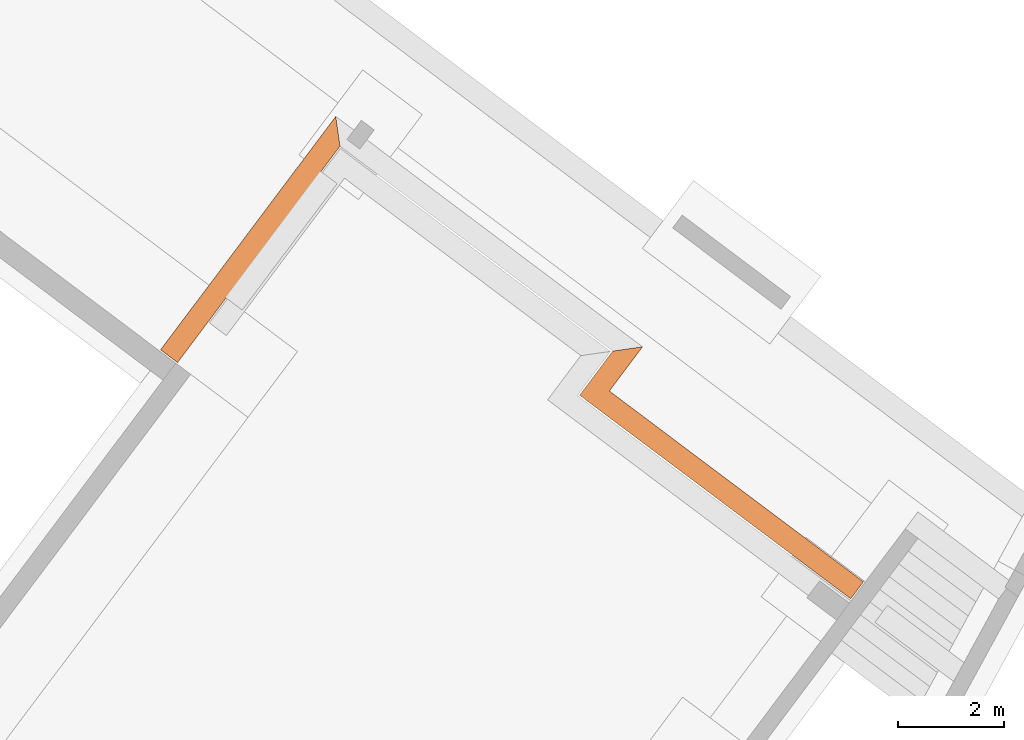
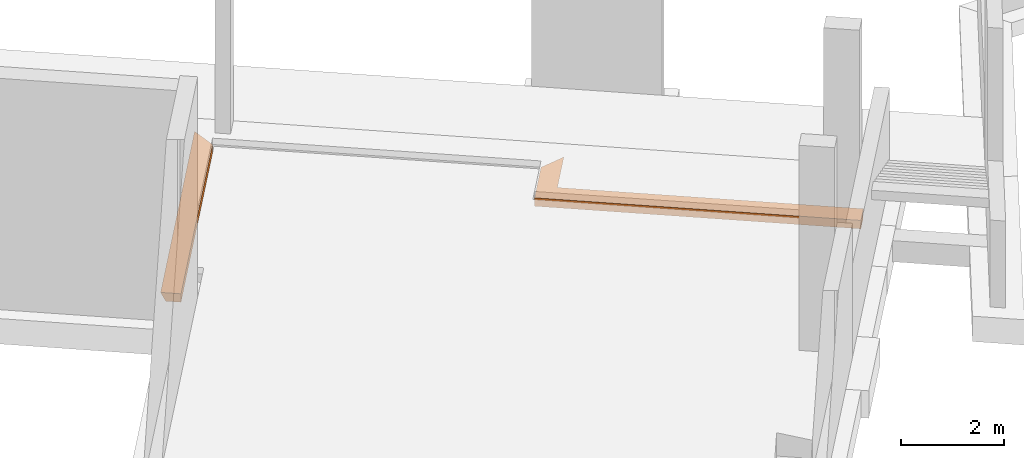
# One storey, part 9 of 9: 1 proxy.
"""IFC2X3 building model written with IfcOpenShell, lengths in metres."""

from ifc_helpers import new_model, entity, si_unit, converted_unit, derived_unit, direction, frame, origin, place, context, subcontext, project, spatial, faceted_brep, type_object, element, save


model = new_model("IFC2X3")

# Units and contexts
model_context = context("Model", 3, precision=1e-05, world=origin(), true_north=direction((6.123031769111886e-17, 1.0)))
body_context = subcontext(model_context, "Body", "Model", "MODEL_VIEW")
ifc_project = project(units=[si_unit("LENGTHUNIT", "METRE"), si_unit("AREAUNIT", "SQUARE_METRE"), si_unit("VOLUMEUNIT", "CUBIC_METRE"), converted_unit("PLANEANGLEUNIT", "DEGREE", entity("IfcRatioMeasure", 0.017453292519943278), si_unit("PLANEANGLEUNIT", "RADIAN"), dimensions=[0, 0, 0, 0, 0, 0, 0]), si_unit("MASSUNIT", "GRAM", prefix="KILO"), derived_unit("MASSDENSITYUNIT", [(si_unit("MASSUNIT", "GRAM", prefix="KILO"), 1), (si_unit("LENGTHUNIT", "METRE"), -3)]), derived_unit("IONCONCENTRATIONUNIT", [(si_unit("MASSUNIT", "GRAM", prefix="KILO"), 1), (si_unit("LENGTHUNIT", "METRE"), -3)]), derived_unit("MOMENTOFINERTIAUNIT", [(si_unit("LENGTHUNIT", "METRE"), 4)]), si_unit("TIMEUNIT", "SECOND"), si_unit("FREQUENCYUNIT", "HERTZ"), si_unit("THERMODYNAMICTEMPERATUREUNIT", "DEGREE_CELSIUS"), derived_unit("THERMALTRANSMITTANCEUNIT", [(si_unit("MASSUNIT", "GRAM", prefix="KILO"), 1), (si_unit("THERMODYNAMICTEMPERATUREUNIT", "KELVIN"), -1), (si_unit("TIMEUNIT", "SECOND"), -3)]), derived_unit("THERMALCONDUCTANCEUNIT", [(si_unit("MASSUNIT", "GRAM", prefix="KILO"), 1), (si_unit("THERMODYNAMICTEMPERATUREUNIT", "KELVIN"), -1), (si_unit("TIMEUNIT", "SECOND"), -3), (si_unit("LENGTHUNIT", "METRE"), 1)]), derived_unit("VOLUMETRICFLOWRATEUNIT", [(si_unit("LENGTHUNIT", "METRE"), 3), (si_unit("TIMEUNIT", "SECOND"), -1)]), derived_unit("MASSFLOWRATEUNIT", [(si_unit("MASSUNIT", "GRAM", prefix="KILO"), 1), (si_unit("TIMEUNIT", "SECOND"), -1)]), derived_unit("ROTATIONALFREQUENCYUNIT", [(si_unit("TIMEUNIT", "SECOND"), -1)]), si_unit("ELECTRICCURRENTUNIT", "AMPERE"), si_unit("ELECTRICVOLTAGEUNIT", "VOLT"), si_unit("POWERUNIT", "WATT"), si_unit("FORCEUNIT", "NEWTON", prefix="KILO"), si_unit("ILLUMINANCEUNIT", "LUX"), si_unit("LUMINOUSFLUXUNIT", "LUMEN"), si_unit("LUMINOUSINTENSITYUNIT", "CANDELA"), derived_unit("USERDEFINED", [(si_unit("MASSUNIT", "GRAM", prefix="KILO"), -1), (si_unit("LENGTHUNIT", "METRE"), -2), (si_unit("TIMEUNIT", "SECOND"), 3), (si_unit("LUMINOUSFLUXUNIT", "LUMEN"), 1)]), derived_unit("USERDEFINED", [(si_unit("MASSUNIT", "GRAM", prefix="KILO"), 1), (si_unit("TIMEUNIT", "SECOND"), -3), (si_unit("LENGTHUNIT", "METRE"), 3), (si_unit("ELECTRICCURRENTUNIT", "AMPERE"), -2)]), derived_unit("SOUNDPOWERUNIT", [(si_unit("MASSUNIT", "GRAM", prefix="KILO"), 1), (si_unit("TIMEUNIT", "SECOND"), -3), (si_unit("LENGTHUNIT", "METRE"), 2)]), derived_unit("SOUNDPRESSUREUNIT", [(si_unit("MASSUNIT", "GRAM", prefix="KILO"), 1), (si_unit("LENGTHUNIT", "METRE"), -1), (si_unit("TIMEUNIT", "SECOND"), -2)]), derived_unit("LINEARVELOCITYUNIT", [(si_unit("LENGTHUNIT", "METRE"), 1), (si_unit("TIMEUNIT", "SECOND"), -1)]), si_unit("PRESSUREUNIT", "PASCAL"), derived_unit("USERDEFINED", [(si_unit("MASSUNIT", "GRAM", prefix="KILO"), 1), (si_unit("LENGTHUNIT", "METRE"), -2), (si_unit("TIMEUNIT", "SECOND"), -2)]), derived_unit("LINEARFORCEUNIT", [(si_unit("MASSUNIT", "GRAM", prefix="KILO"), 1), (si_unit("TIMEUNIT", "SECOND"), -2)]), derived_unit("PLANARFORCEUNIT", [(si_unit("MASSUNIT", "GRAM", prefix="KILO"), 1), (si_unit("LENGTHUNIT", "METRE"), -1), (si_unit("TIMEUNIT", "SECOND"), -2)]), derived_unit("SPECIFICHEATCAPACITYUNIT", [(si_unit("THERMODYNAMICTEMPERATUREUNIT", "KELVIN"), -1), (si_unit("LENGTHUNIT", "METRE"), 2), (si_unit("TIMEUNIT", "SECOND"), -2)]), derived_unit("HEATINGVALUEUNIT", [(si_unit("LENGTHUNIT", "METRE"), 2), (si_unit("TIMEUNIT", "SECOND"), -2)]), derived_unit("VAPORPERMEABILITYUNIT", [(si_unit("LENGTHUNIT", "METRE"), -1), (si_unit("TIMEUNIT", "SECOND"), 1)]), derived_unit("DYNAMICVISCOSITYUNIT", [(si_unit("MASSUNIT", "GRAM", prefix="KILO"), 1), (si_unit("TIMEUNIT", "SECOND"), -1), (si_unit("LENGTHUNIT", "METRE"), -1)]), derived_unit("THERMALEXPANSIONCOEFFICIENTUNIT", [(si_unit("THERMODYNAMICTEMPERATUREUNIT", "KELVIN"), -1)]), derived_unit("MODULUSOFELASTICITYUNIT", [(si_unit("MASSUNIT", "GRAM", prefix="KILO"), 1), (si_unit("LENGTHUNIT", "METRE"), -1), (si_unit("TIMEUNIT", "SECOND"), -2)]), derived_unit("ISOTHERMALMOISTURECAPACITYUNIT", [(si_unit("LENGTHUNIT", "METRE"), 3), (si_unit("MASSUNIT", "GRAM", prefix="KILO"), -1)]), derived_unit("MOISTUREDIFFUSIVITYUNIT", [(si_unit("TIMEUNIT", "SECOND"), -1), (si_unit("LENGTHUNIT", "METRE"), 2)])], contexts=[model_context])

# Site, building, storey
site_placement = place(None, origin())
site = spatial("IfcSite", under=ifc_project, at=site_placement, Name="Default", CompositionType="ELEMENT")
building_placement = place(site_placement, frame((0.0, 0.0, 235.0), z_axis=(0.0, 0.0, 1.0), x_axis=(-0.7996477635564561, 0.6004693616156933, 0.0)))
building = spatial("IfcBuilding", under=site, at=building_placement, CompositionType="ELEMENT")
storey_placement = place(building_placement, frame((0.0, 0.0, -5.4499999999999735)))
storey = spatial("IfcBuildingStorey", under=building, at=storey_placement, Name="PS1- Gimnàs", CompositionType="ELEMENT", Elevation=-5.4499999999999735)

# Proxy
building_element_proxy_type = type_object("IfcBuildingElementProxyType", Name="Borde de losa:STR- Formigó- Vora solera 15 cm- 35x30 cm", PredefinedType="NOTDEFINED")
proxy_placement = place(storey_placement, frame((3.1751476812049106, -39.90998938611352, -0.38000000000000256)))
element("IfcBuildingElementProxy", 1, at=proxy_placement, inside=storey, type_object=building_element_proxy_type, Name="Borde de losa:STR- Formigó- Vora solera 15 cm- 35x30 cm", ObjectType="Borde de losa:STR- Formigó- Vora solera 15 cm- 35x30 cm", context=body_context, shape_type="Brep", body=[
    faceted_brep([(12.800000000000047, 0.40000000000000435, 0.0), (13.100000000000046, 0.10000000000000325, 0.0), (13.200000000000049, 0.0, 0.20000000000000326), (12.800000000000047, 0.40000000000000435, 0.2000000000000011), (12.800000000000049, 1.4700000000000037, 0.2000000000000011), (12.800000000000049, 1.4700000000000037, 0.0), (13.200000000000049, 1.4700000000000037, 0.20000000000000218), (13.10000000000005, 1.4700000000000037, 0.0), (12.800000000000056, 5.490785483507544, 0.0), (12.800000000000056, 5.490785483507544, 0.2000000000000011), (13.200000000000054, 5.490785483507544, 0.20000000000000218), (13.100000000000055, 5.490785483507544, 0.0)], [[[0, 1, 2, 3]], [[4, 5, 0, 3]], [[6, 4, 3, 2]], [[7, 6, 2, 1]], [[5, 7, 1, 0]], [[8, 9, 10, 11]], [[9, 8, 5, 4]], [[10, 9, 4, 6]], [[11, 10, 6, 7]], [[8, 11, 7, 5]]]),
    faceted_brep([(6.380000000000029, 0.40000000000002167, 0.0), (6.380000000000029, 0.40000000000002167, 0.2000000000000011), (5.98000000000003, 0.0, 0.20000000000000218), (6.080000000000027, 0.10000000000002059, 0.0), (6.380000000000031, 1.440000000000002, 0.0), (6.380000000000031, 1.440000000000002, 0.2000000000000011), (5.980000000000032, 1.0400000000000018, 0.20000000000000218), (6.080000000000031, 1.1400000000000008, 0.0), (0.0, 1.440000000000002, 0.0), (0.0, 1.140000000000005, 0.0), (0.0, 1.0400000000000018, 0.20000000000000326), (0.0, 1.440000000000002, 0.2000000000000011)], [[[0, 1, 2, 3]], [[1, 0, 4, 5]], [[2, 1, 5, 6]], [[3, 2, 6, 7]], [[0, 3, 7, 4]], [[8, 9, 10, 11]], [[5, 4, 8, 11]], [[6, 5, 11, 10]], [[7, 6, 10, 9]], [[4, 7, 9, 8]]]),
])

save(model, "model.ifc")
